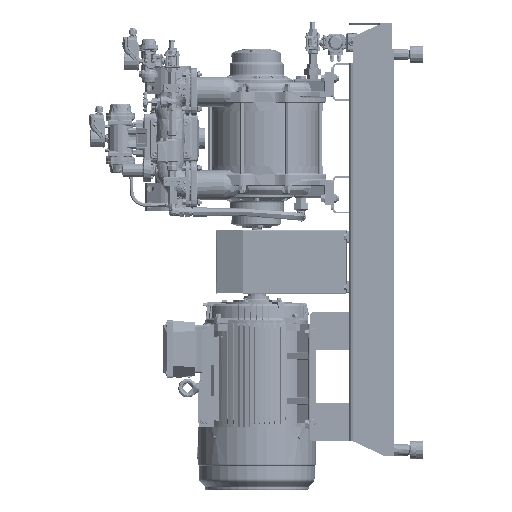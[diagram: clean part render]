
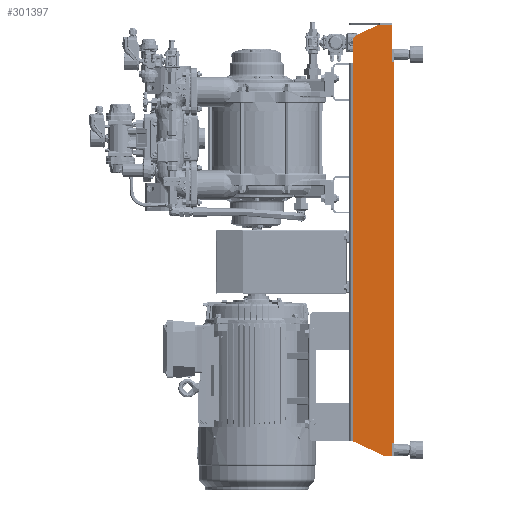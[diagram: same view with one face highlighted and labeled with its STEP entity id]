
A CAD part, left-side view. The second image highlights one B-rep face of the part: STEP entity #301397.
In plain terms, the highlighted planar face has unit normal (-1, 0, 0).
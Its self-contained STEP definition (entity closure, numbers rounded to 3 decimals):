
#10783=PLANE('',#325241);
#23846=CIRCLE('',#325242,25.);
#40006=FACE_OUTER_BOUND('',#58477,.T.);
#58477=EDGE_LOOP('',(#225827,#225828,#225829,#225830,#225831,#225832,#225833,
#225834,#225835,#225836,#225837,#225838));
#79467=LINE('',#525560,#99699);
#80154=LINE('',#527742,#100386);
#80155=LINE('',#527744,#100387);
#80156=LINE('',#527745,#100388);
#80157=LINE('',#527747,#100389);
#80158=LINE('',#527751,#100390);
#80159=LINE('',#527752,#100391);
#80160=LINE('',#527754,#100392);
#80161=LINE('',#527756,#100393);
#80162=LINE('',#527758,#100394);
#80163=LINE('',#527759,#100395);
#99699=VECTOR('',#373144,10.);
#100386=VECTOR('',#375011,10.);
#100387=VECTOR('',#375012,10.);
#100388=VECTOR('',#375013,10.);
#100389=VECTOR('',#375014,10.);
#100390=VECTOR('',#375017,10.);
#100391=VECTOR('',#375018,10.);
#100392=VECTOR('',#375019,10.);
#100393=VECTOR('',#375020,10.);
#100394=VECTOR('',#375021,10.);
#100395=VECTOR('',#375022,10.);
#129281=VERTEX_POINT('',#525557);
#129282=VERTEX_POINT('',#525559);
#129912=VERTEX_POINT('',#527726);
#129916=VERTEX_POINT('',#527740);
#129917=VERTEX_POINT('',#527741);
#129918=VERTEX_POINT('',#527743);
#129919=VERTEX_POINT('',#527746);
#129920=VERTEX_POINT('',#527748);
#129921=VERTEX_POINT('',#527750);
#129922=VERTEX_POINT('',#527753);
#129923=VERTEX_POINT('',#527755);
#129924=VERTEX_POINT('',#527757);
#163089=EDGE_CURVE('',#129281,#129282,#79467,.T.);
#164108=EDGE_CURVE('',#129916,#129917,#80154,.T.);
#164109=EDGE_CURVE('',#129916,#129918,#80155,.T.);
#164110=EDGE_CURVE('',#129282,#129918,#80156,.T.);
#164111=EDGE_CURVE('',#129919,#129281,#80157,.T.);
#164112=EDGE_CURVE('',#129920,#129919,#23846,.T.);
#164113=EDGE_CURVE('',#129921,#129920,#80158,.T.);
#164114=EDGE_CURVE('',#129921,#129912,#80159,.T.);
#164115=EDGE_CURVE('',#129922,#129912,#80160,.T.);
#164116=EDGE_CURVE('',#129923,#129922,#80161,.T.);
#164117=EDGE_CURVE('',#129923,#129924,#80162,.T.);
#164118=EDGE_CURVE('',#129924,#129917,#80163,.T.);
#225827=ORIENTED_EDGE('',*,*,#164108,.F.);
#225828=ORIENTED_EDGE('',*,*,#164109,.T.);
#225829=ORIENTED_EDGE('',*,*,#164110,.F.);
#225830=ORIENTED_EDGE('',*,*,#163089,.F.);
#225831=ORIENTED_EDGE('',*,*,#164111,.F.);
#225832=ORIENTED_EDGE('',*,*,#164112,.F.);
#225833=ORIENTED_EDGE('',*,*,#164113,.F.);
#225834=ORIENTED_EDGE('',*,*,#164114,.T.);
#225835=ORIENTED_EDGE('',*,*,#164115,.F.);
#225836=ORIENTED_EDGE('',*,*,#164116,.F.);
#225837=ORIENTED_EDGE('',*,*,#164117,.T.);
#225838=ORIENTED_EDGE('',*,*,#164118,.T.);
#301397=ADVANCED_FACE('',(#40006),#10783,.T.);
#325241=AXIS2_PLACEMENT_3D('',#527739,#375009,#375010);
#325242=AXIS2_PLACEMENT_3D('',#527749,#375015,#375016);
#373144=DIRECTION('',(0.,-1.,0.));
#375009=DIRECTION('center_axis',(-1.,0.,0.));
#375010=DIRECTION('ref_axis',(0.,0.,
-1.));
#375011=DIRECTION('',(0.,0.,-1.));
#375012=DIRECTION('',(0.,1.,0.));
#375013=DIRECTION('',(0.,0.,-1.));
#375014=DIRECTION('',(0.,-0.906,0.423));
#375015=DIRECTION('center_axis',(1.,0.,0.));
#375016=DIRECTION('ref_axis',(0.,0.843,0.537));
#375017=DIRECTION('',(0.,0.,1.));
#375018=DIRECTION('',(0.,0.,-1.));
#375019=DIRECTION('',(0.,0.906,0.423));
#375020=DIRECTION('',(0.,1.,0.));
#375021=DIRECTION('',(0.,0.,1.));
#375022=DIRECTION('',(0.,-1.,0.));
#525557=CARTESIAN_POINT('',(-254.,51.196,713.75));
#525559=CARTESIAN_POINT('',(-254.,6.,713.75));
#525560=CARTESIAN_POINT('',(-254.,51.196,713.75));
#527726=CARTESIAN_POINT('',(-254.,138.,-683.25));
#527739=CARTESIAN_POINT('Origin',(-254.,403.586,-140.));
#527740=CARTESIAN_POINT('',(-254.,0.,589.75));
#527741=CARTESIAN_POINT('',(-254.,0.,-689.25));
#527742=CARTESIAN_POINT('',(-254.,0.,-933.75));
#527743=CARTESIAN_POINT('',(-254.,6.,589.75));
#527744=CARTESIAN_POINT('',(-254.,201.793,589.75));
#527745=CARTESIAN_POINT('',(-254.,6.,713.75));
#527746=CARTESIAN_POINT('',(-254.,123.565,680.004));
#527747=CARTESIAN_POINT('',(-254.,138.,673.273));
#527748=CARTESIAN_POINT('',(-254.,138.,657.346));
#527749=CARTESIAN_POINT('Origin',(-254.,113.,657.346));
#527750=CARTESIAN_POINT('',(-254.,138.,583.75));
#527751=CARTESIAN_POINT('',(-254.,138.,583.75));
#527752=CARTESIAN_POINT('',(-254.,138.,-140.));
#527753=CARTESIAN_POINT('',(-254.,30.775,-733.25));
#527754=CARTESIAN_POINT('',(-254.,30.775,-733.25));
#527755=CARTESIAN_POINT('',(-254.,6.,-733.25));
#527756=CARTESIAN_POINT('',(-254.,0.,-733.25));
#527757=CARTESIAN_POINT('',(-254.,6.,-689.25));
#527758=CARTESIAN_POINT('',(-254.,6.,-440.375));
#527759=CARTESIAN_POINT('',(-254.,201.793,-689.25));
